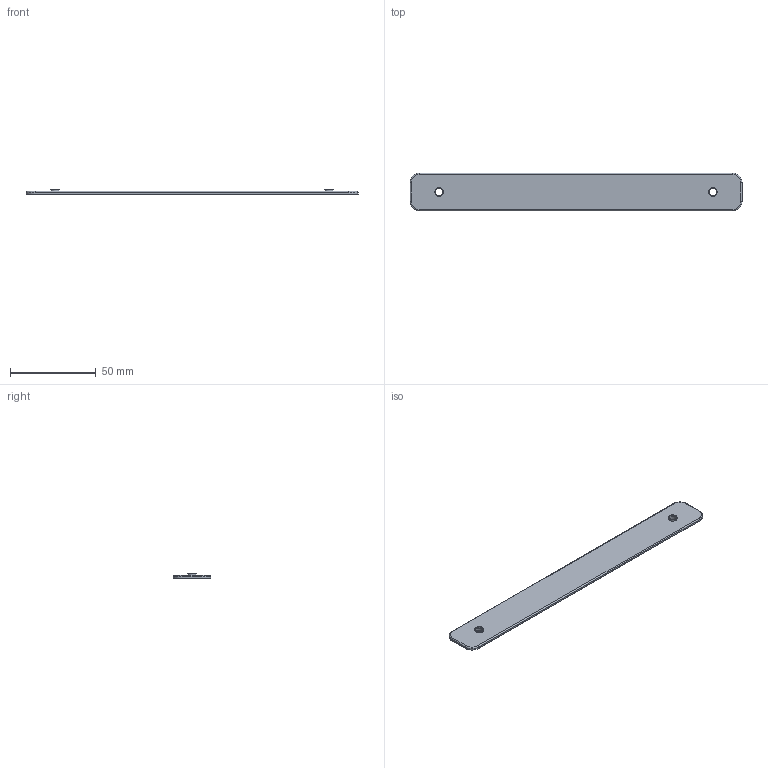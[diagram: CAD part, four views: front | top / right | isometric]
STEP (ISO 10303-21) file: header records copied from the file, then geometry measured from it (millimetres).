
FILE_DESCRIPTION(('Open CASCADE Model'),'2;1');
FILE_NAME('W-BAR-WL160-22','2026-10-19T21:23:52',('Author'),( 'Open CASCADE'),'Open CASCADE STEP processor 8.0','build123d', 'Unknown');
FILE_SCHEMA(('AUTOMOTIVE_DESIGN { 1 0 10303 214 1 1 1 1 }'));
Length unit declared in the file: millimetre
Products named in the file (2): W-BAR-WL160-22; brass_WL160-22__w
Assembly tree (1 placements, depth 2):
  W-BAR-WL160-22
    brass_WL160-22__w
Bounding box: 194 x 22 x 2.79 mm (x, y, z)
Volume: 7540.7 mm3; surface area: 9116.3 mm2
Topology: 1 solids, 1 shells, 32 faces, 68 edges, 40 vertices
Faces by surface type: plane 12, cylinder 12, cone 4, torus 4
Full cylindrical faces by diameter (mm): 4.3 x2, 5 x2
Entity records: 1768 total; most frequent: CARTESIAN_POINT 358, DIRECTION 264, ORIENTED_EDGE 136, PCURVE 136, DEFINITIONAL_REPRESENTATION 136, LINE 124, VECTOR 124, EDGE_CURVE 68
